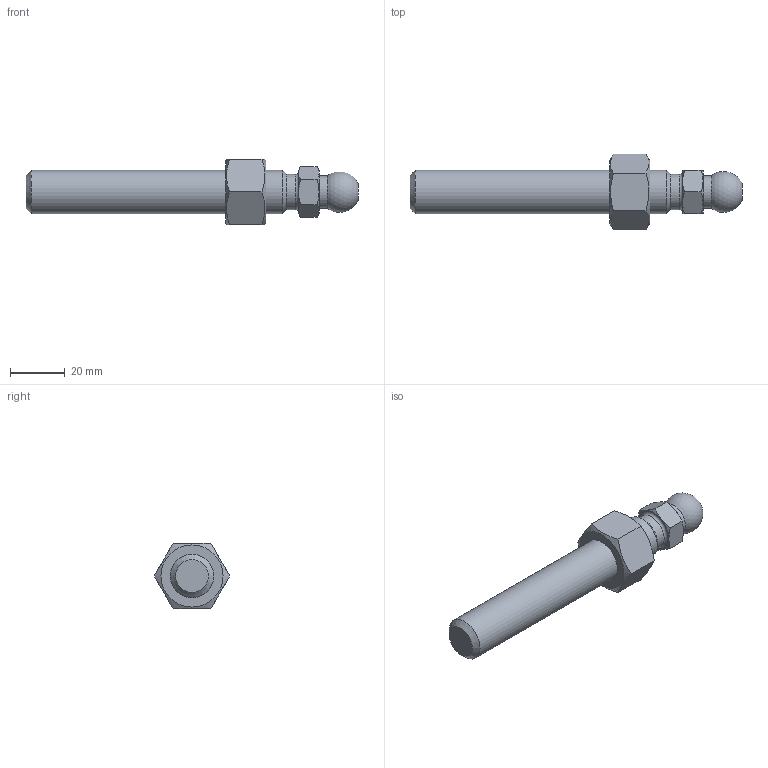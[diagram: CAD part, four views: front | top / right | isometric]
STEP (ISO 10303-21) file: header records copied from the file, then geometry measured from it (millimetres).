
FILE_DESCRIPTION(('STEP AP203'), '1');
FILE_NAME('A00020.116100', '', ('UNSPECIFIED'), ('UNSPECIFIED'), 'C3D Converter', 'C3D Toolkit', '');
FILE_SCHEMA(('CONFIG_CONTROL_DESIGN'));
Length unit declared in the file: millimetre
Products named in the file (2): A00020.116100
Assembly tree (1 placements, depth 2):
  A00020.116100
    (unnamed)
Bounding box: 121.8 x 27.71 x 24 mm (x, y, z)
Volume: 28254.6 mm3; surface area: 8822.7 mm2
Topology: 2 solids, 2 shells, 41 faces, 90 edges, 55 vertices
Faces by surface type: plane 18, cone 17, cylinder 4, sphere 1, torus 1
Full cylindrical faces by diameter (mm): 12 x1, 13 x1, 13.835 x1, 16 x1
Entity records: 2336 total; most frequent: CARTESIAN_POINT 1206, DIRECTION 160, ORIENTED_EDGE 156, EDGE_CURVE 78, AXIS2_PLACEMENT_3D 74, EDGE_LOOP 57, VERTEX_POINT 55, ADVANCED_FACE 41
